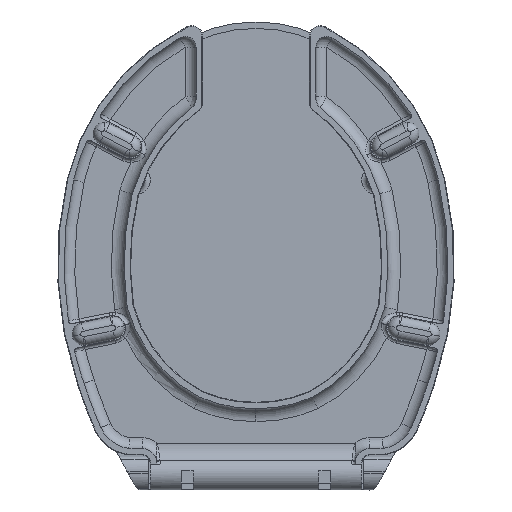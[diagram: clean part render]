
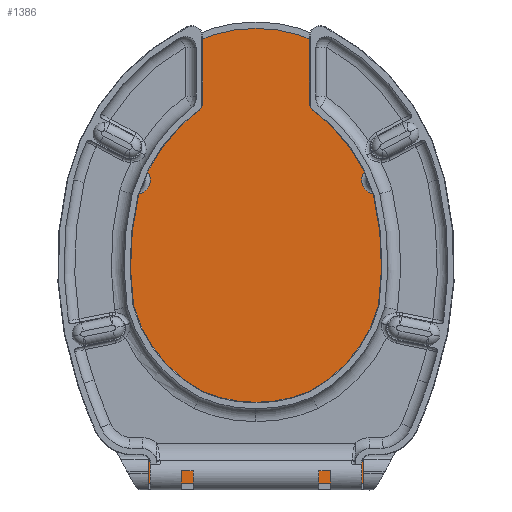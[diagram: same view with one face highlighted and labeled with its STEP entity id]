
A CAD part, front view. The second image highlights one B-rep face of the part: STEP entity #1386.
In plain terms, the highlighted planar face has unit normal (0, -1, 0).
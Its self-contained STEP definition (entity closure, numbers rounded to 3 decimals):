
#108 = EDGE_CURVE ( 'NONE', #12020, #7719, #2712, .T. ) ;
#351 = CIRCLE ( 'NONE', #6139, 13. ) ;
#365 = CARTESIAN_POINT ( 'NONE',  ( 110.825, 45., 197.706 ) ) ;
#393 = EDGE_CURVE ( 'NONE', #3396, #9619, #4757, .T. ) ;
#442 = CIRCLE ( 'NONE', #11305, 13. ) ;
#476 = CARTESIAN_POINT ( 'NONE',  ( 150.135, 45., -1.2 ) ) ;
#551 = FACE_OUTER_BOUND ( 'NONE', #3200, .T. ) ;
#577 = EDGE_CURVE ( 'NONE', #2994, #4741, #6396, .T. ) ;
#1183 = DIRECTION ( 'NONE',  ( 0., 1., 0. ) ) ;
#1386 = ADVANCED_FACE ( 'NONE', ( #551, #1787, #1981 ), #14396, .F. ) ;
#1696 = CARTESIAN_POINT ( 'NONE',  ( -150.77, 45., -1.2 ) ) ;
#1762 = CARTESIAN_POINT ( 'NONE',  ( -111.459, 45., 184.706 ) ) ;
#1774 = EDGE_CURVE ( 'NONE', #16740, #4379, #16795, .T. ) ;
#1787 = FACE_BOUND ( 'NONE', #13328, .T. ) ;
#1981 = FACE_BOUND ( 'NONE', #5714, .T. ) ;
#2139 = ORIENTED_EDGE ( 'NONE', *, *, #1774, .F. ) ;
#2152 = EDGE_CURVE ( 'NONE', #2932, #9619, #3944, .T. ) ;
#2272 = DIRECTION ( 'NONE',  ( 0., -1., 0. ) ) ;
#2712 = CIRCLE ( 'NONE', #14234, 329.07 ) ;
#2713 = EDGE_CURVE ( 'NONE', #15458, #8222, #351, .T. ) ;
#2932 = VERTEX_POINT ( 'NONE', #4895 ) ;
#2994 = VERTEX_POINT ( 'NONE', #15711 ) ;
#3192 = ORIENTED_EDGE ( 'NONE', *, *, #108, .F. ) ;
#3200 = EDGE_LOOP ( 'NONE', ( #13293, #11915, #3192, #8168, #2139, #8265, #8948, #9815, #10859 ) ) ;
#3396 = VERTEX_POINT ( 'NONE', #4069 ) ;
#3517 = DIRECTION ( 'NONE',  ( 0., 1., 0. ) ) ;
#3631 = CIRCLE ( 'NONE', #11716, 134.232 ) ;
#3659 = CARTESIAN_POINT ( 'NONE',  ( -297.139, 45., 144.42 ) ) ;
#3747 = ORIENTED_EDGE ( 'NONE', *, *, #2713, .F. ) ;
#3853 = EDGE_CURVE ( 'NONE', #8222, #15458, #7055, .T. ) ;
#3944 = CIRCLE ( 'NONE', #13726, 196.98 ) ;
#4000 = VECTOR ( 'NONE', #11734, 1000. ) ;
#4069 = CARTESIAN_POINT ( 'NONE',  ( -0.317, 45., 325.667 ) ) ;
#4379 = VERTEX_POINT ( 'NONE', #11780 ) ;
#4516 = CARTESIAN_POINT ( 'NONE',  ( 160.067, 45., 106.819 ) ) ;
#4601 = CARTESIAN_POINT ( 'NONE',  ( -111.459, 45., 171.706 ) ) ;
#4711 = DIRECTION ( 'NONE',  ( 0., 1., 0. ) ) ;
#4741 = VERTEX_POINT ( 'NONE', #4601 ) ;
#4757 = CIRCLE ( 'NONE', #5310, 134.232 ) ;
#4848 = DIRECTION ( 'NONE',  ( 0., 0., -1. ) ) ;
#4856 = CIRCLE ( 'NONE', #7814, 470.382 ) ;
#4895 = CARTESIAN_POINT ( 'NONE',  ( 159.576, 45., 182.384 ) ) ;
#4928 = DIRECTION ( 'NONE',  ( 0., 1., 0. ) ) ;
#4970 = CARTESIAN_POINT ( 'NONE',  ( 106.188, 45., -97.627 ) ) ;
#5310 = AXIS2_PLACEMENT_3D ( 'NONE', #8696, #4711, #12473 ) ;
#5714 = EDGE_LOOP ( 'NONE', ( #13710, #7941 ) ) ;
#5747 = DIRECTION ( 'NONE',  ( 0., -1., 0. ) ) ;
#6139 = AXIS2_PLACEMENT_3D ( 'NONE', #10953, #5747, #14645 ) ;
#6204 = CARTESIAN_POINT ( 'NONE',  ( -0.317, 45., 191.435 ) ) ;
#6396 = CIRCLE ( 'NONE', #10515, 13. ) ;
#6660 = AXIS2_PLACEMENT_3D ( 'NONE', #11458, #1183, #10209 ) ;
#6809 = VERTEX_POINT ( 'NONE', #476 ) ;
#6983 = DIRECTION ( 'NONE',  ( 0., 0., -1. ) ) ;
#7055 = CIRCLE ( 'NONE', #8419, 13. ) ;
#7309 = AXIS2_PLACEMENT_3D ( 'NONE', #12860, #14233, #14129 ) ;
#7719 = VERTEX_POINT ( 'NONE', #13451 ) ;
#7814 = AXIS2_PLACEMENT_3D ( 'NONE', #13733, #8702, #15093 ) ;
#7921 = EDGE_CURVE ( 'NONE', #16456, #3396, #3631, .T. ) ;
#7941 = ORIENTED_EDGE ( 'NONE', *, *, #577, .T. ) ;
#8168 = ORIENTED_EDGE ( 'NONE', *, *, #13233, .F. ) ;
#8190 = CARTESIAN_POINT ( 'NONE',  ( 110.825, 45., 171.706 ) ) ;
#8222 = VERTEX_POINT ( 'NONE', #365 ) ;
#8265 = ORIENTED_EDGE ( 'NONE', *, *, #16221, .T. ) ;
#8276 = EDGE_CURVE ( 'NONE', #6809, #2932, #12963, .T. ) ;
#8419 = AXIS2_PLACEMENT_3D ( 'NONE', #12718, #9956, #4848 ) ;
#8696 = CARTESIAN_POINT ( 'NONE',  ( -0.317, 45., 191.435 ) ) ;
#8702 = DIRECTION ( 'NONE',  ( 0., -1., 0. ) ) ;
#8948 = ORIENTED_EDGE ( 'NONE', *, *, #8276, .T. ) ;
#9102 = DIRECTION ( 'NONE',  ( 0., 0., -1. ) ) ;
#9520 = CARTESIAN_POINT ( 'NONE',  ( -57.419, 45., 312.916 ) ) ;
#9619 = VERTEX_POINT ( 'NONE', #13052 ) ;
#9815 = ORIENTED_EDGE ( 'NONE', *, *, #2152, .T. ) ;
#9956 = DIRECTION ( 'NONE',  ( 0., -1., 0. ) ) ;
#10209 = DIRECTION ( 'NONE',  ( 0., 0., -1. ) ) ;
#10515 = AXIS2_PLACEMENT_3D ( 'NONE', #1762, #14579, #10836 ) ;
#10836 = DIRECTION ( 'NONE',  ( 0., 0., -1. ) ) ;
#10859 = ORIENTED_EDGE ( 'NONE', *, *, #393, .F. ) ;
#10879 = CARTESIAN_POINT ( 'NONE',  ( -160.701, 45., 106.819 ) ) ;
#10953 = CARTESIAN_POINT ( 'NONE',  ( 110.825, 45., 184.706 ) ) ;
#11128 = DIRECTION ( 'NONE',  ( 0., 0., -1. ) ) ;
#11211 = AXIS2_PLACEMENT_3D ( 'NONE', #3659, #3517, #14053 ) ;
#11305 = AXIS2_PLACEMENT_3D ( 'NONE', #14146, #16647, #9102 ) ;
#11332 = EDGE_CURVE ( 'NONE', #4741, #2994, #442, .T. ) ;
#11458 = CARTESIAN_POINT ( 'NONE',  ( 31.506, 45., 137.151 ) ) ;
#11716 = AXIS2_PLACEMENT_3D ( 'NONE', #6204, #4928, #13783 ) ;
#11734 = DIRECTION ( 'NONE',  ( -1., 0., 0. ) ) ;
#11780 = CARTESIAN_POINT ( 'NONE',  ( -106.822, 45., -97.627 ) ) ;
#11915 = ORIENTED_EDGE ( 'NONE', *, *, #13281, .F. ) ;
#11978 = CIRCLE ( 'NONE', #7309, 470.382 ) ;
#12020 = VERTEX_POINT ( 'NONE', #1696 ) ;
#12226 = DIRECTION ( 'NONE',  ( 0., -1., 0. ) ) ;
#12328 = DIRECTION ( 'NONE',  ( 0., 1., 0. ) ) ;
#12473 = DIRECTION ( 'NONE',  ( 0., 0., -1. ) ) ;
#12718 = CARTESIAN_POINT ( 'NONE',  ( 110.825, 45., 184.706 ) ) ;
#12860 = CARTESIAN_POINT ( 'NONE',  ( 296.504, 45., 144.42 ) ) ;
#12963 = CIRCLE ( 'NONE', #14979, 329.07 ) ;
#12984 = CIRCLE ( 'NONE', #6660, 196.98 ) ;
#13052 = CARTESIAN_POINT ( 'NONE',  ( 56.785, 45., 312.916 ) ) ;
#13233 = EDGE_CURVE ( 'NONE', #4379, #12020, #11978, .T. ) ;
#13281 = EDGE_CURVE ( 'NONE', #7719, #16456, #12984, .T. ) ;
#13293 = ORIENTED_EDGE ( 'NONE', *, *, #7921, .F. ) ;
#13328 = EDGE_LOOP ( 'NONE', ( #3747, #16473 ) ) ;
#13451 = CARTESIAN_POINT ( 'NONE',  ( -160.21, 45., 182.384 ) ) ;
#13584 = DIRECTION ( 'NONE',  ( 0., 0., -1. ) ) ;
#13710 = ORIENTED_EDGE ( 'NONE', *, *, #11332, .T. ) ;
#13726 = AXIS2_PLACEMENT_3D ( 'NONE', #15098, #2272, #11128 ) ;
#13733 = CARTESIAN_POINT ( 'NONE',  ( -297.139, 45., 144.42 ) ) ;
#13783 = DIRECTION ( 'NONE',  ( 0., 0., -1. ) ) ;
#14053 = DIRECTION ( 'NONE',  ( 1., 0., 0. ) ) ;
#14129 = DIRECTION ( 'NONE',  ( 0., 0., -1. ) ) ;
#14146 = CARTESIAN_POINT ( 'NONE',  ( -111.459, 45., 184.706 ) ) ;
#14233 = DIRECTION ( 'NONE',  ( 0., 1., 0. ) ) ;
#14234 = AXIS2_PLACEMENT_3D ( 'NONE', #4516, #12328, #13584 ) ;
#14396 = PLANE ( 'NONE',  #11211 ) ;
#14576 = CARTESIAN_POINT ( 'NONE',  ( 109.57, 45., -97.627 ) ) ;
#14579 = DIRECTION ( 'NONE',  ( 0., 1., 0. ) ) ;
#14645 = DIRECTION ( 'NONE',  ( 0., 0., -1. ) ) ;
#14979 = AXIS2_PLACEMENT_3D ( 'NONE', #10879, #12226, #6983 ) ;
#15093 = DIRECTION ( 'NONE',  ( 0., 0., -1. ) ) ;
#15098 = CARTESIAN_POINT ( 'NONE',  ( -32.14, 45., 137.151 ) ) ;
#15458 = VERTEX_POINT ( 'NONE', #8190 ) ;
#15711 = CARTESIAN_POINT ( 'NONE',  ( -111.459, 45., 197.706 ) ) ;
#16221 = EDGE_CURVE ( 'NONE', #16740, #6809, #4856, .T. ) ;
#16456 = VERTEX_POINT ( 'NONE', #9520 ) ;
#16473 = ORIENTED_EDGE ( 'NONE', *, *, #3853, .F. ) ;
#16647 = DIRECTION ( 'NONE',  ( 0., 1., 0. ) ) ;
#16740 = VERTEX_POINT ( 'NONE', #4970 ) ;
#16795 = LINE ( 'NONE', #14576, #4000 ) ;
